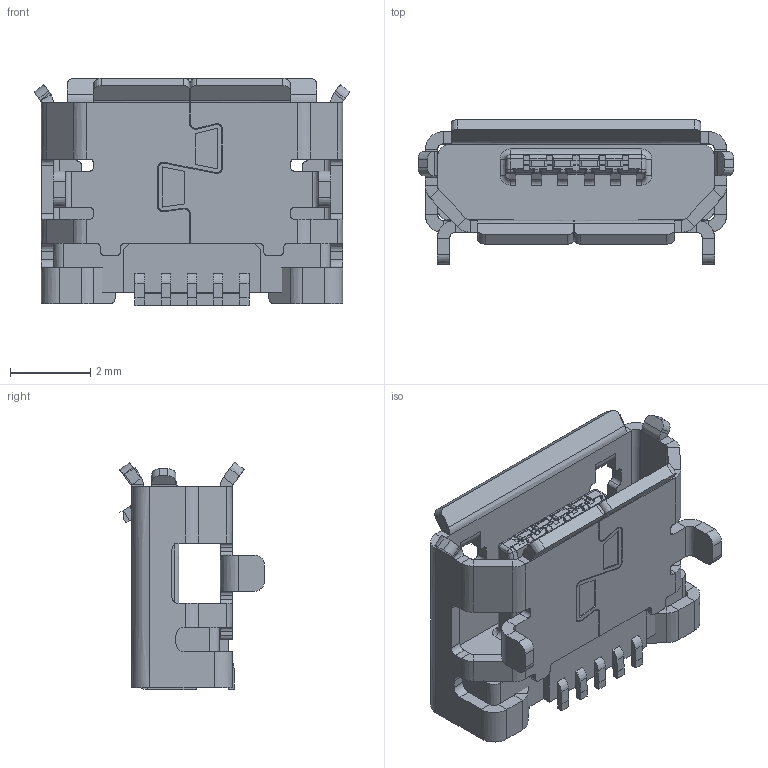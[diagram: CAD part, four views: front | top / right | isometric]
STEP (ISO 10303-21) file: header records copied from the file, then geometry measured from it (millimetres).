
FILE_DESCRIPTION((''),'2;1');
FILE_NAME('A4A0504-MODIFY-1106_ASM','2011-10-27T',('TECONN_TG027'),(''),'PRO/ENGINEER BY PARAMETRIC TECHNOLOGY CORPORATION, 2009440','PRO/ENGINEER BY PARAMETRIC TECHNOLOGY CORPORATION, 2009440','');
FILE_SCHEMA(('AUTOMOTIVE_DESIGN { 1 0 10303 214 1 1 1 1 }'));
Products named in the file (1): A4A0504-MODIFY-1106_ASM
Bounding box: 7.86 x 3.6 x 5.66 mm (x, y, z)
Surface area: 298 mm2 (no closed solid volume)
Topology: 0 solids, 0 shells, 782 faces, 3984 edges, 3980 vertices
Faces by surface type: bspline 774, torus 4, sphere 4
Entity records: 61140 total; most frequent: CARTESIAN_POINT 21125, DIRECTION 5833, TRIMMED_CURVE 5359, VECTOR 4901, LINE 4901, DEFINITIONAL_REPRESENTATION 3980, PCURVE 3980, COMPOSITE_CURVE_SEGMENT 3980
